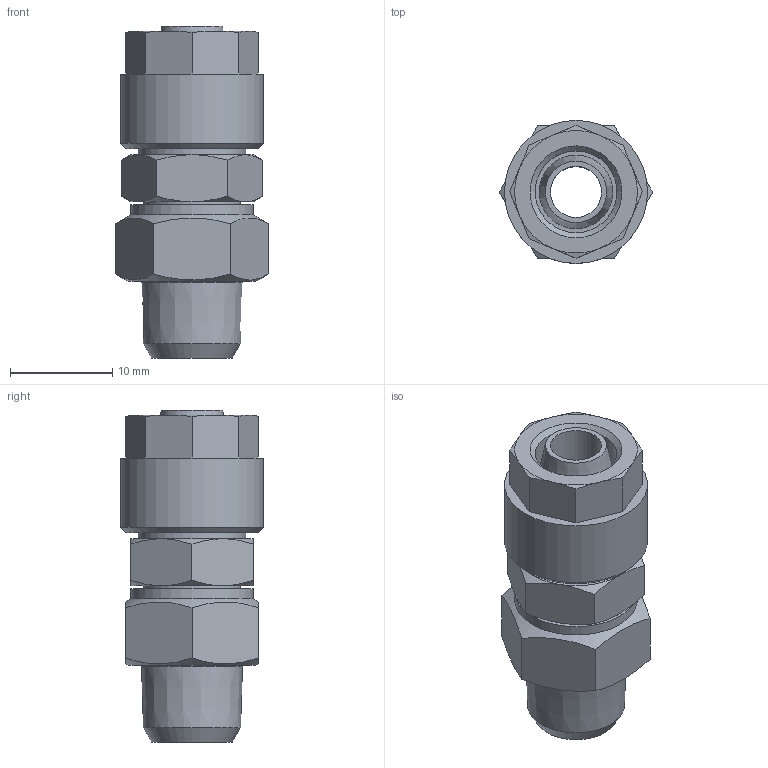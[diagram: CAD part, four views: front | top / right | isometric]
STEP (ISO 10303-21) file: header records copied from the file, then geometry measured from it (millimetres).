
FILE_DESCRIPTION(/* description */ (''),/* implementation_level */ '2;1');
FILE_NAME(/* name */ '10103_301DK_8-6_R18_20.07.16',/* time_stamp */ '2016-07-20T08:59:45+02:00',/* author */ (''),/* organization */ (''),/* preprocessor_version */ 'ST-DEVELOPER v16.5',/* originating_system */ 'HiCAD 2016 2101.0 Build 254',/* authorisation */ '');
FILE_SCHEMA (('AUTOMOTIVE_DESIGN { 1 0 10303 214 1 1 1 1 }'));
Length unit declared in the file: millimetre
Products named in the file (4): Root; 10103_Gewinde; 10103_Anschluss; 17006
Assembly tree (3 placements, depth 2):
  Root
    10103_Gewinde
    10103_Anschluss
    17006
Bounding box: 15.01 x 14 x 32.5 mm (x, y, z)
Volume: 3116.9 mm3; surface area: 3378.3 mm2
Topology: 3 solids, 3 shells, 78 faces, 171 edges, 108 vertices
Faces by surface type: plane 33, cone 32, cylinder 12, torus 1
Full cylindrical faces by diameter (mm): 5 x1, 5.5 x1, 6.8 x1, 8 x1, 9.5 x1, 9.6 x1, 9.884 x1, 10.5 x1, 10.773 x1, 12 x2, 14 x1
Entity records: 3394 total; most frequent: DIRECTION 410, CARTESIAN_POINT 316, PRESENTATION_STYLE_ASSIGNMENT 273, COLOUR_RGB 271, DRAUGHTING_PRE_DEFINED_CURVE_FONT 270, CURVE_STYLE 270, OVER_RIDING_STYLED_ITEM 270, ORIENTED_EDGE 270
